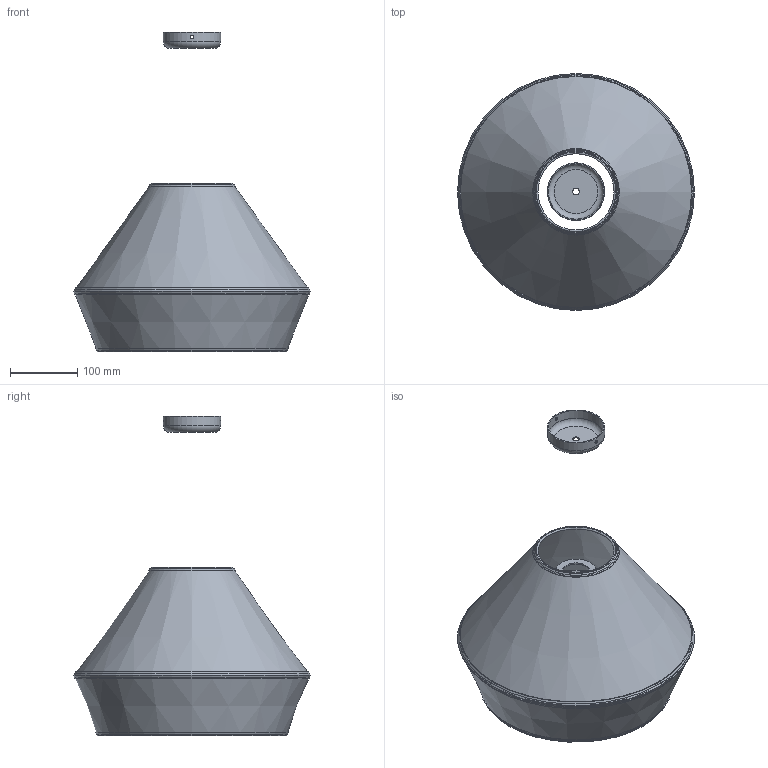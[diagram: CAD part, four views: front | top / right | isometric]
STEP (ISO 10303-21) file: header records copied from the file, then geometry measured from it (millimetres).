
FILE_DESCRIPTION( ( 'STEP AP203' ), '1' );
FILE_NAME( '//srvbf/BF Disegni/Z (LIBRERIA)/STRUTTURE LUMETTI PIANTANE/SINO-S Sospensione 3D.stp', '2020-10-15T12:59:31', ( ' ' ), ( ' ' ), 'XStep 1.0', ' ', ' ' );
FILE_SCHEMA( ( 'CONFIG_CONTROL_DESIGN) ( )' ) );
Length unit declared in the file: metre
Products named in the file (8): Assem1; 1; 2; 3; 4; 5; 6; 7
Bounding box: 351.6 x 351.6 x 474 mm (x, y, z)
Volume: 513272.3 mm3; surface area: 1074114.9 mm2
Topology: 14 solids, 14 shells, 82 faces, 140 edges, 90 vertices
Faces by surface type: plane 32, cone 26, cylinder 14, torus 10
Full cylindrical faces by diameter (mm): 5 x4, 10 x2, 40 x2, 60 x2, 82 x2, 85 x2
Entity records: 1438 total; most frequent: CARTESIAN_POINT 373, DIRECTION 170, AXIS2_PLACEMENT_3D 85, EDGE_LOOP 80, ORIENTED_EDGE 80, FACE_OUTER_BOUND 47, ADVANCED_FACE 41, CC_DESIGN_PERSON_AND_ORGANIZATION_ASSIGNMENT 40
